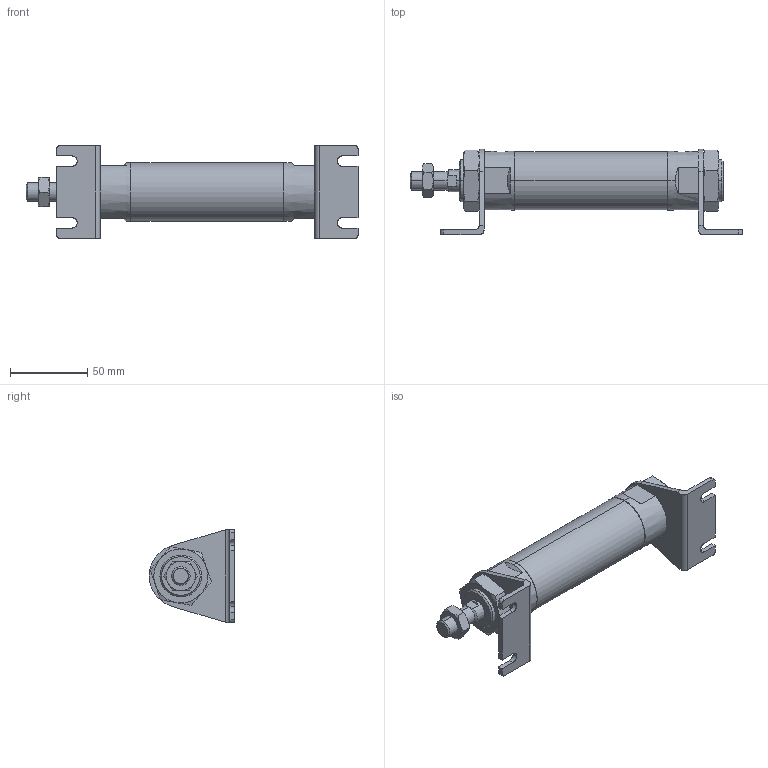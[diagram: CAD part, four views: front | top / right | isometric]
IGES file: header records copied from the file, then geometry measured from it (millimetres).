
Start section: SolidWorks IGES file using analytic representation for surfaces
Global section: file name: C:\Users\Toshiba\Desktop\J#2-32-50-L.IGS; native system: SolidWorks 2014; preprocessor: SolidWorks 2014; author: Toshiba; date: 160310.085756; units: millimetre
Bounding box: 215.2 x 55.5 x 60 mm (x, y, z)
Surface area: 46195 mm2 (no closed solid volume)
Topology: 0 solids, 0 shells, 170 faces, 2728 edges, 2724 vertices
Faces by surface type: bspline 107, revolution 63
